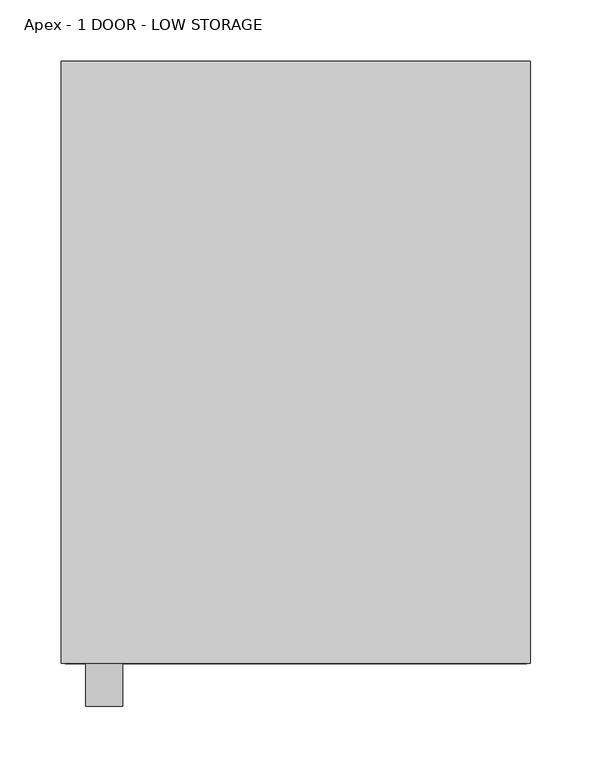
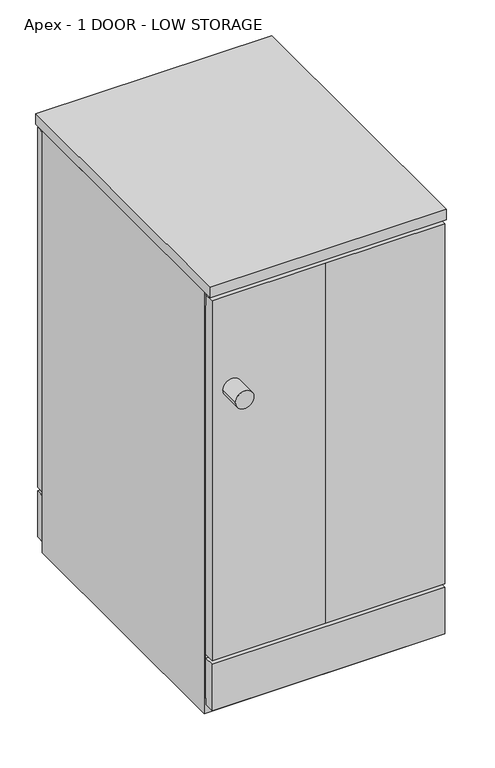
"""IFC4 building model written with IfcOpenShell, lengths in millimetres: furniture geometry, Apex - 1 DOOR - LOW STORAGE : APEX-SW-09-LOW STORAGE 1DR 400mm(w) x 490mm(d) x 740mm(h)."""

from ifc_helpers import new_model, si_unit, point, frame, frame_2d, origin, place, context, project, spatial, polyline, circle_curve, trimmed, segment, composite_curve, outline, extrude, source, transform, mapped, element, save


def apex_1_door_low_storage_3ecda170(model_context):
    return source(origin(), model_context, "Body", "SweptSolid", [
        extrude(outline(polyline([(382.0, -490.0), (0.0, -490.0), (0.0, 0.0), (382.0, 0.0), (382.0, -490.0)])), frame((0.0, 0.0, 722.0), z_axis=(0.0, 0.0, 1.0), x_axis=(1.0, 0.0, 0.0)), (0.0, 0.0, 1.0), 18.0),
        extrude(outline(composite_curve([segment(trimmed(circle_curve(frame_2d((557.0, 35.0)), 15.0), [point((557.0, 20.0))], [point((557.0, 50.0))], False, "CARTESIAN"), True, "CONTINUOUS"), segment(trimmed(circle_curve(frame_2d((557.0, 35.0)), 15.0), [point((557.0, 50.0))], [point((557.0, 20.0))], False, "CARTESIAN"), True, "CONTINUOUS")], self_intersect=False)), frame((0.0, -525.0, 0.0), z_axis=(0.0, 1.0, 0.0), x_axis=(0.0, 0.0, 1.0)), (0.0, 0.0, 1.0), 35.0),
        extrude(outline(polyline([(722.0, 382.0), (722.0, 0.0), (0.0, 0.0), (0.0, 382.0), (722.0, 382.0)]), holes=[polyline([(25.0, 379.0), (25.0, 3.0), (697.0, 3.0), (697.0, 379.0), (25.0, 379.0)])]), frame((0.0, -472.0, 0.0), z_axis=(0.0, 1.0, 0.0), x_axis=(0.0, 0.0, 1.0)), (0.0, 0.0, 1.0), 454.0),
        extrude(outline(polyline([(186.0, -472.0), (379.0, -472.0), (379.0, -490.0), (186.0, -490.0), (3.0, -490.0), (3.0, -472.0), (186.0, -472.0)])), frame((0.0, 0.0, 100.0), z_axis=(0.0, 0.0, 1.0), x_axis=(1.0, 0.0, 0.0)), (0.0, 0.0, 1.0), 616.0),
        extrude(outline(polyline([(379.0, 0.0), (379.0, -18.0), (3.0, -18.0), (3.0, 0.0), (379.0, 0.0)])), frame((0.0, 0.0, 100.0), z_axis=(0.0, 0.0, 1.0), x_axis=(1.0, 0.0, 0.0)), (0.0, 0.0, 1.0), 616.0),
        extrude(outline(polyline([(379.0, -18.0), (3.0, -18.0), (3.0, 0.0), (379.0, 0.0), (379.0, -18.0)])), frame((0.0, 0.0, 15.0), z_axis=(0.0, 0.0, 1.0), x_axis=(1.0, 0.0, 0.0)), (0.0, 0.0, 1.0), 79.0),
        extrude(outline(polyline([(379.0, -490.0), (3.0, -490.0), (3.0, -472.0), (379.0, -472.0), (379.0, -490.0)])), frame((0.0, 0.0, 15.0), z_axis=(0.0, 0.0, 1.0), x_axis=(1.0, 0.0, 0.0)), (0.0, 0.0, 1.0), 79.0),
    ])


if __name__ == "__main__":
    model = new_model("IFC4")
    model_context = context("Model", 3, world=origin())
    ifc_project = project(units=[si_unit("LENGTHUNIT", "METRE", prefix="MILLI")], contexts=[model_context])
    site = spatial("IfcSite", under=ifc_project)
    building = spatial("IfcBuilding", under=site)
    placement = place(None, origin())
    apex_1_door_low_storage_shape = apex_1_door_low_storage_3ecda170(model_context)
    element("IfcFurniture", 1, ObjectType="Apex - 1 DOOR - LOW STORAGE : APEX-SW-09-LOW STORAGE 1DR 400mm(w) x 490mm(d) x 740mm(h)", at=placement, inside=building, context=model_context, shape_type="MappedRepresentation", body=[
        mapped(apex_1_door_low_storage_shape, transform((0.0, 0.0, 0.0), x_axis=(1.0, 0.0, 0.0), y_axis=(0.0, 1.0, 0.0), z_axis=(0.0, 0.0, 1.0))),
    ])
    save(model, "model.ifc")
